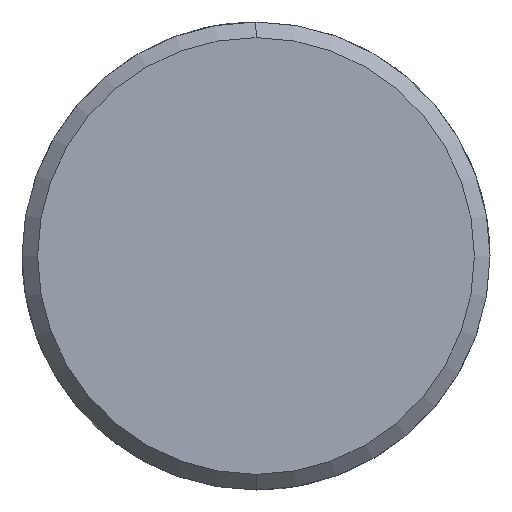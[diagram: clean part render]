
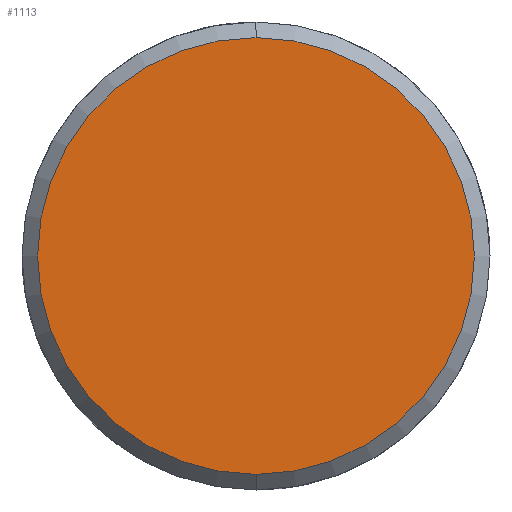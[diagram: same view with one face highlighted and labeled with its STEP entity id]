
A CAD part, left-side view. The second image highlights one B-rep face of the part: STEP entity #1113.
In plain terms, the highlighted planar face has unit normal (-1, 0, 0).
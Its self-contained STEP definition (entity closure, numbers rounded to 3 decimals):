
#1045=CARTESIAN_POINT('Vertex',(-5.,0.,-14.)) ;
#1048=CARTESIAN_POINT('Axis2P3D Location',(-5.,0.,0.)) ;
#1052=CARTESIAN_POINT('Vertex',(-5.,14.,0.)) ;
#1055=CARTESIAN_POINT('Axis2P3D Location',(-5.,0.,0.)) ;
#1059=CARTESIAN_POINT('Vertex',(-5.,0.,14.)) ;
#1081=CARTESIAN_POINT('Axis2P3D Location',(-5.,0.,0.)) ;
#1085=CARTESIAN_POINT('Vertex',(-5.,-14.,0.)) ;
#1088=CARTESIAN_POINT('Axis2P3D Location',(-5.,0.,0.)) ;
#1102=CARTESIAN_POINT('Axis2P3D Location',(-5.,0.,0.)) ;
#1049=DIRECTION('Axis2P3D Direction',(1.,0.,-0.)) ;
#1056=DIRECTION('Axis2P3D Direction',(1.,0.,-0.)) ;
#1082=DIRECTION('Axis2P3D Direction',(1.,0.,-0.)) ;
#1089=DIRECTION('Axis2P3D Direction',(1.,0.,-0.)) ;
#1103=DIRECTION('Axis2P3D Direction',(1.,0.,-0.)) ;
#1104=DIRECTION('Axis2P3D XDirection',(-0.,0.,-1.)) ;
#1050=AXIS2_PLACEMENT_3D('Circle Axis2P3D',#1048,#1049,$) ;
#1057=AXIS2_PLACEMENT_3D('Circle Axis2P3D',#1055,#1056,$) ;
#1083=AXIS2_PLACEMENT_3D('Circle Axis2P3D',#1081,#1082,$) ;
#1090=AXIS2_PLACEMENT_3D('Circle Axis2P3D',#1088,#1089,$) ;
#1105=AXIS2_PLACEMENT_3D('Plane Axis2P3D',#1102,#1103,#1104) ;
#1108=ORIENTED_EDGE('',*,*,#1054,.F.) ;
#1109=ORIENTED_EDGE('',*,*,#1092,.F.) ;
#1110=ORIENTED_EDGE('',*,*,#1087,.F.) ;
#1111=ORIENTED_EDGE('',*,*,#1061,.F.) ;
#1113=ADVANCED_FACE('351-18X66X100',(#1112),#1106,.F.) ;
#1051=CIRCLE('generated circle',#1050,14.) ;
#1058=CIRCLE('generated circle',#1057,14.) ;
#1084=CIRCLE('generated circle',#1083,14.) ;
#1091=CIRCLE('generated circle',#1090,14.) ;
#1054=EDGE_CURVE('',#1046,#1053,#1051,.T.) ;
#1061=EDGE_CURVE('',#1053,#1060,#1058,.T.) ;
#1087=EDGE_CURVE('',#1060,#1086,#1084,.T.) ;
#1092=EDGE_CURVE('',#1086,#1046,#1091,.T.) ;
#1107=EDGE_LOOP('',(#1108,#1109,#1110,#1111)) ;
#1112=FACE_OUTER_BOUND('',#1107,.T.) ;
#1106=PLANE('Plane',#1105) ;
#1046=VERTEX_POINT('',#1045) ;
#1053=VERTEX_POINT('',#1052) ;
#1060=VERTEX_POINT('',#1059) ;
#1086=VERTEX_POINT('',#1085) ;
